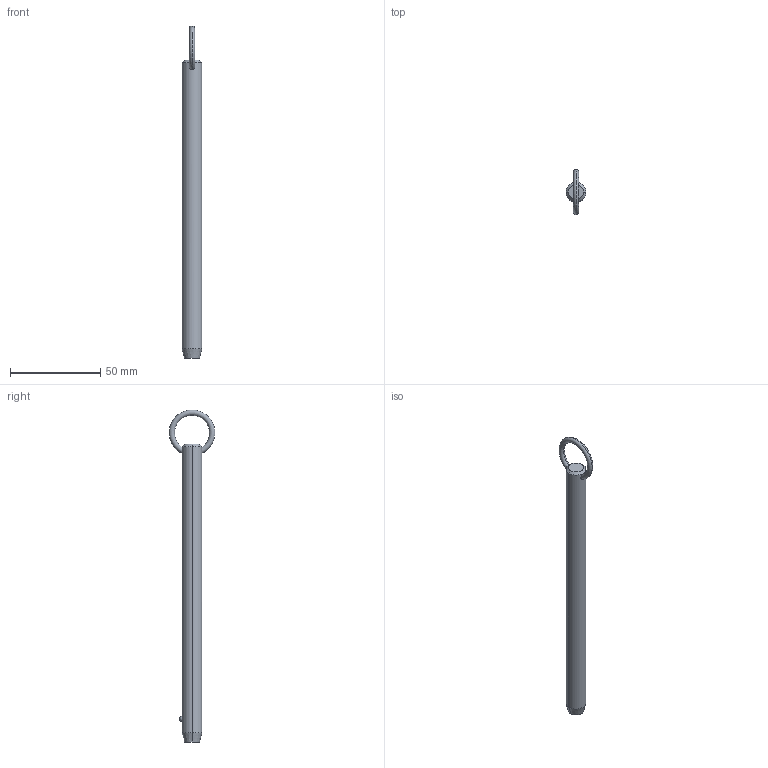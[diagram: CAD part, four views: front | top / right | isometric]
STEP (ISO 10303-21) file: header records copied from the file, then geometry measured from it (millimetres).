
FILE_DESCRIPTION (( 'STEP AP203' ), '1' );
FILE_NAME ('P1250.050-570.step', '2019-07-29T20:40:14', ( '' ), ( '' ), 'SwSTEP 2.0', 'SolidWorks 2017', '' );
FILE_SCHEMA (( 'CONFIG_CONTROL_DESIGN' ));
Length unit declared in the file: millimetre
Products named in the file (1): P1250.050-570
Bounding box: 11.1 x 25.32 x 184.35 mm (x, y, z)
Volume: 16288.3 mm3; surface area: 6420.4 mm2
Topology: 1 solids, 1 shells, 12 faces, 28 edges, 17 vertices
Faces by surface type: cone 4, torus 2, sphere 2, cylinder 2, plane 2
Entity records: 523 total; most frequent: CARTESIAN_POINT 190, DIRECTION 56, ORIENTED_EDGE 48, AXIS2_PLACEMENT_3D 25, EDGE_CURVE 24, EDGE_LOOP 15, VERTEX_POINT 15, ADVANCED_FACE 12
